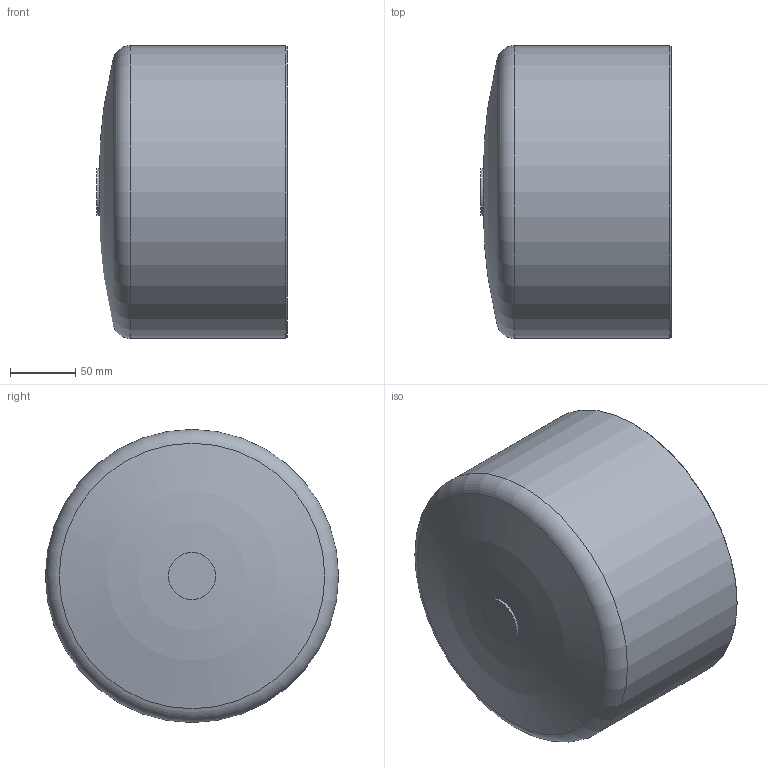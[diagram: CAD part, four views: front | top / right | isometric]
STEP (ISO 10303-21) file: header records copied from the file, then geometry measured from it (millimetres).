
FILE_DESCRIPTION(/* description */ ('Unknown'),/* implementation_level */ '2;1');
FILE_NAME(/* name */ 'CAP225H',/* time_stamp */ '2022-04-01T15:53:06+02:00',/* author */ ('Unknown'),/* organization */ ('Unknown'),/* preprocessor_version */ 'ST-DEVELOPER v18.1',/* originating_system */ 'Solid Edge',/* authorisation */ 'Unknown');
FILE_SCHEMA (('FEATURE_BASED_PROCESS_PLANNING','TECHNICAL_DATA_PACKAGING','AUTOMOTIVE_DESIGN {1 0 10303 214 3 1 1}'));
Length unit declared in the file: millimetre
Products named in the file (1): CAP225H
Bounding box: 146 x 225 x 225 mm (x, y, z)
Volume: 3184502.9 mm3; surface area: 222386.3 mm2
Topology: 1 solids, 1 shells, 11 faces, 19 edges, 11 vertices
Faces by surface type: torus 4, plane 3, cylinder 3, cone 1
Full cylindrical faces by diameter (mm): 36 x1, 163.4 x1, 225 x1
Entity records: 244 total; most frequent: DIRECTION 44, CARTESIAN_POINT 32, AXIS2_PLACEMENT_3D 22, ORIENTED_EDGE 20, EDGE_LOOP 20, FACE_BOUND 20, ADVANCED_FACE 11, EDGE_CURVE 10
